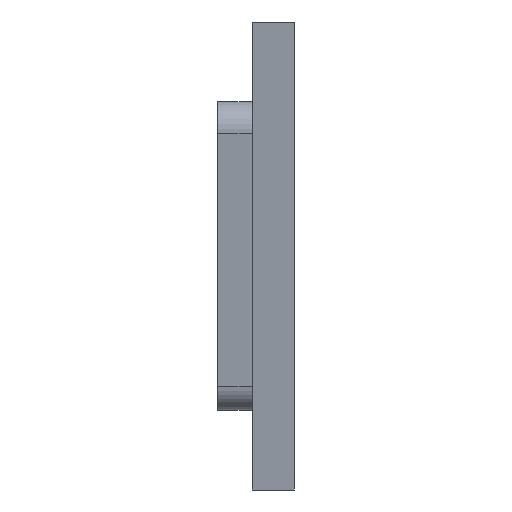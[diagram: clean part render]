
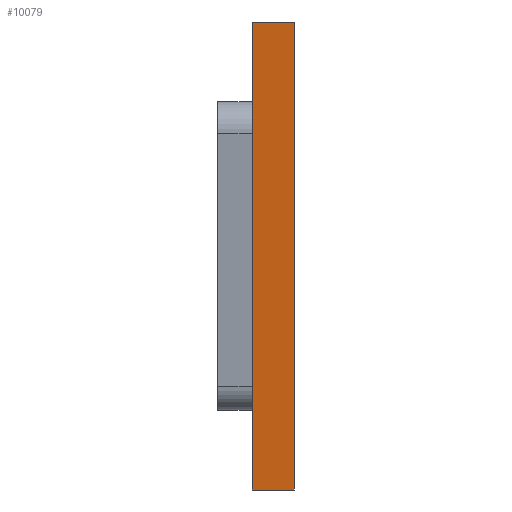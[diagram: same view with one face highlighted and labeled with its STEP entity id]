
A CAD part, left-side view. The second image highlights one B-rep face of the part: STEP entity #10079.
In plain terms, the highlighted planar face has unit normal (-0.99, 0, -0.139).
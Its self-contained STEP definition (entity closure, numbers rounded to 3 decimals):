
#790 = ORIENTED_EDGE ( 'NONE', *, *, #12732, .F. ) ;
#2006 = LINE ( 'NONE', #2100, #3898 ) ;
#2100 = CARTESIAN_POINT ( 'NONE',  ( -20.411, -4.5, -25. ) ) ;
#2500 = DIRECTION ( 'NONE',  ( -0.139, 0., 0.99 ) ) ;
#3604 = ORIENTED_EDGE ( 'NONE', *, *, #9508, .F. ) ;
#3898 = VECTOR ( 'NONE', #4787, 1000. ) ;
#4035 = DIRECTION ( 'NONE',  ( -0.99, 0., -0.139 ) ) ;
#4219 = FACE_OUTER_BOUND ( 'NONE', #10163, .T. ) ;
#4349 = CARTESIAN_POINT ( 'NONE',  ( -27.439, 0., 25. ) ) ;
#4414 = ORIENTED_EDGE ( 'NONE', *, *, #11491, .T. ) ;
#4787 = DIRECTION ( 'NONE',  ( 0., 1., 0. ) ) ;
#5770 = LINE ( 'NONE', #17514, #8506 ) ;
#6801 = VERTEX_POINT ( 'NONE', #13160 ) ;
#7315 = DIRECTION ( 'NONE',  ( -0.139, 0., 0.99 ) ) ;
#7586 = AXIS2_PLACEMENT_3D ( 'NONE', #14257, #4035, #2500 ) ;
#8506 = VECTOR ( 'NONE', #9914, 1000. ) ;
#8825 = VECTOR ( 'NONE', #10863, 1000. ) ;
#9084 = CARTESIAN_POINT ( 'NONE',  ( -27.439, -4.5, 25. ) ) ;
#9120 = LINE ( 'NONE', #4349, #14663 ) ;
#9508 = EDGE_CURVE ( 'NONE', #6801, #12343, #9120, .T. ) ;
#9914 = DIRECTION ( 'NONE',  ( -0.139, 0., 0.99 ) ) ;
#10079 = ADVANCED_FACE ( 'NONE', ( #4219 ), #11244, .T. ) ;
#10163 = EDGE_LOOP ( 'NONE', ( #3604, #790, #4414, #14110 ) ) ;
#10669 = CARTESIAN_POINT ( 'NONE',  ( -27.439, -4.5, 25. ) ) ;
#10863 = DIRECTION ( 'NONE',  ( 0., 1., 0. ) ) ;
#11244 = PLANE ( 'NONE',  #7586 ) ;
#11491 = EDGE_CURVE ( 'NONE', #12238, #13146, #5770, .T. ) ;
#12238 = VERTEX_POINT ( 'NONE', #17056 ) ;
#12343 = VERTEX_POINT ( 'NONE', #14931 ) ;
#12732 = EDGE_CURVE ( 'NONE', #12238, #6801, #2006, .T. ) ;
#12949 = EDGE_CURVE ( 'NONE', #13146, #12343, #18093, .T. ) ;
#13146 = VERTEX_POINT ( 'NONE', #9084 ) ;
#13160 = CARTESIAN_POINT ( 'NONE',  ( -20.411, 0., -25. ) ) ;
#14110 = ORIENTED_EDGE ( 'NONE', *, *, #12949, .T. ) ;
#14257 = CARTESIAN_POINT ( 'NONE',  ( -27.439, -4.5, 25. ) ) ;
#14663 = VECTOR ( 'NONE', #7315, 1000. ) ;
#14931 = CARTESIAN_POINT ( 'NONE',  ( -27.439, 0., 25. ) ) ;
#17056 = CARTESIAN_POINT ( 'NONE',  ( -20.411, -4.5, -25. ) ) ;
#17514 = CARTESIAN_POINT ( 'NONE',  ( -27.439, -4.5, 25. ) ) ;
#18093 = LINE ( 'NONE', #10669, #8825 ) ;
